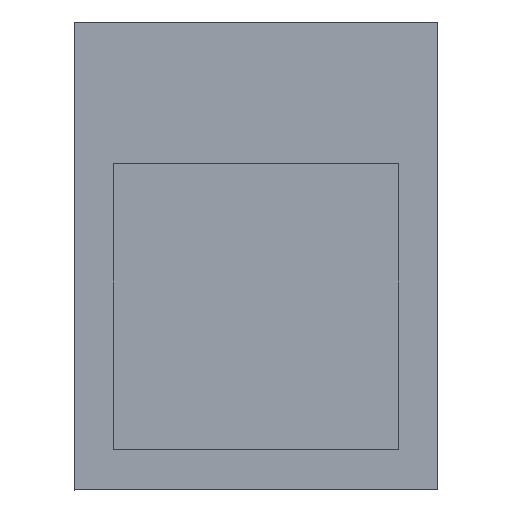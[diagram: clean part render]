
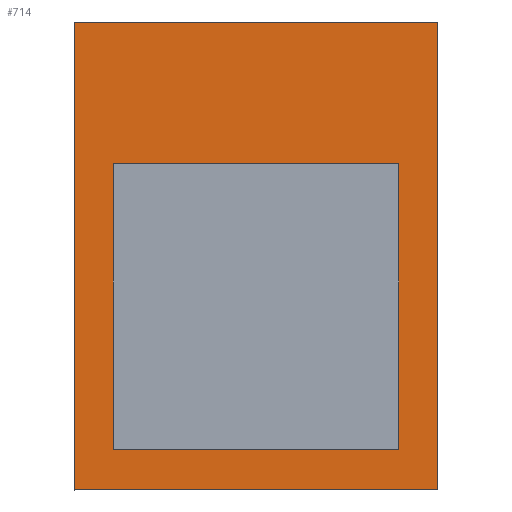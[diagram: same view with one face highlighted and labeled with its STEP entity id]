
A CAD part, top view. The second image highlights one B-rep face of the part: STEP entity #714.
In plain terms, the highlighted planar face has unit normal (0, 0, 1).
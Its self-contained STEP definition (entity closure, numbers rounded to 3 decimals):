
#236=CARTESIAN_POINT('Vertex',(-0.7,-0.9,0.25)) ;
#239=CARTESIAN_POINT('Line Origine',(-0.7,0.,0.25)) ;
#243=CARTESIAN_POINT('Vertex',(-0.7,0.9,0.25)) ;
#559=CARTESIAN_POINT('Vertex',(0.7,-0.9,0.25)) ;
#562=CARTESIAN_POINT('Line Origine',(0.,-0.9,0.25)) ;
#657=CARTESIAN_POINT('Axis2P3D Location',(0.,0.,0.25)) ;
#662=CARTESIAN_POINT('Line Origine',(0.7,0.,0.25)) ;
#666=CARTESIAN_POINT('Vertex',(0.7,0.9,0.25)) ;
#669=CARTESIAN_POINT('Line Origine',(0.,0.9,0.25)) ;
#680=CARTESIAN_POINT('Line Origine',(0.,0.355,0.25)) ;
#684=CARTESIAN_POINT('Vertex',(-0.55,0.355,0.25)) ;
#686=CARTESIAN_POINT('Vertex',(0.55,0.355,0.25)) ;
#689=CARTESIAN_POINT('Line Origine',(0.55,-0.195,0.25)) ;
#693=CARTESIAN_POINT('Vertex',(0.55,-0.745,0.25)) ;
#696=CARTESIAN_POINT('Line Origine',(0.,-0.745,0.25)) ;
#700=CARTESIAN_POINT('Vertex',(-0.55,-0.745,0.25)) ;
#703=CARTESIAN_POINT('Line Origine',(-0.55,-0.195,0.25)) ;
#240=DIRECTION('Vector Direction',(0.,1.,0.)) ;
#563=DIRECTION('Vector Direction',(-1.,0.,0.)) ;
#658=DIRECTION('Axis2P3D Direction',(0.,0.,-1.)) ;
#659=DIRECTION('Axis2P3D XDirection',(-1.,0.,0.)) ;
#663=DIRECTION('Vector Direction',(0.,-1.,0.)) ;
#670=DIRECTION('Vector Direction',(1.,0.,0.)) ;
#681=DIRECTION('Vector Direction',(1.,0.,0.)) ;
#690=DIRECTION('Vector Direction',(0.,-1.,0.)) ;
#697=DIRECTION('Vector Direction',(-1.,0.,0.)) ;
#704=DIRECTION('Vector Direction',(0.,1.,0.)) ;
#660=AXIS2_PLACEMENT_3D('Plane Axis2P3D',#657,#658,#659) ;
#675=ORIENTED_EDGE('',*,*,#566,.F.) ;
#676=ORIENTED_EDGE('',*,*,#668,.F.) ;
#677=ORIENTED_EDGE('',*,*,#673,.F.) ;
#678=ORIENTED_EDGE('',*,*,#245,.F.) ;
#709=ORIENTED_EDGE('',*,*,#688,.T.) ;
#710=ORIENTED_EDGE('',*,*,#695,.T.) ;
#711=ORIENTED_EDGE('',*,*,#702,.T.) ;
#712=ORIENTED_EDGE('',*,*,#707,.T.) ;
#713=FACE_BOUND('',#708,.T.) ;
#241=VECTOR('Line Direction',#240,1.) ;
#564=VECTOR('Line Direction',#563,1.) ;
#664=VECTOR('Line Direction',#663,1.) ;
#671=VECTOR('Line Direction',#670,1.) ;
#682=VECTOR('Line Direction',#681,1.) ;
#691=VECTOR('Line Direction',#690,1.) ;
#698=VECTOR('Line Direction',#697,1.) ;
#705=VECTOR('Line Direction',#704,1.) ;
#714=ADVANCED_FACE('AF181C(SPHWH1A1N3C0)',(#679,#713),#661,.F.) ;
#245=EDGE_CURVE('',#237,#244,#242,.T.) ;
#566=EDGE_CURVE('',#560,#237,#565,.T.) ;
#668=EDGE_CURVE('',#667,#560,#665,.T.) ;
#673=EDGE_CURVE('',#244,#667,#672,.T.) ;
#688=EDGE_CURVE('',#685,#687,#683,.T.) ;
#695=EDGE_CURVE('',#687,#694,#692,.T.) ;
#702=EDGE_CURVE('',#694,#701,#699,.T.) ;
#707=EDGE_CURVE('',#701,#685,#706,.T.) ;
#674=EDGE_LOOP('',(#675,#676,#677,#678)) ;
#708=EDGE_LOOP('',(#709,#710,#711,#712)) ;
#679=FACE_OUTER_BOUND('',#674,.T.) ;
#242=LINE('Line',#239,#241) ;
#565=LINE('Line',#562,#564) ;
#665=LINE('Line',#662,#664) ;
#672=LINE('Line',#669,#671) ;
#683=LINE('Line',#680,#682) ;
#692=LINE('Line',#689,#691) ;
#699=LINE('Line',#696,#698) ;
#706=LINE('Line',#703,#705) ;
#661=PLANE('Plane',#660) ;
#237=VERTEX_POINT('',#236) ;
#244=VERTEX_POINT('',#243) ;
#560=VERTEX_POINT('',#559) ;
#667=VERTEX_POINT('',#666) ;
#685=VERTEX_POINT('',#684) ;
#687=VERTEX_POINT('',#686) ;
#694=VERTEX_POINT('',#693) ;
#701=VERTEX_POINT('',#700) ;
